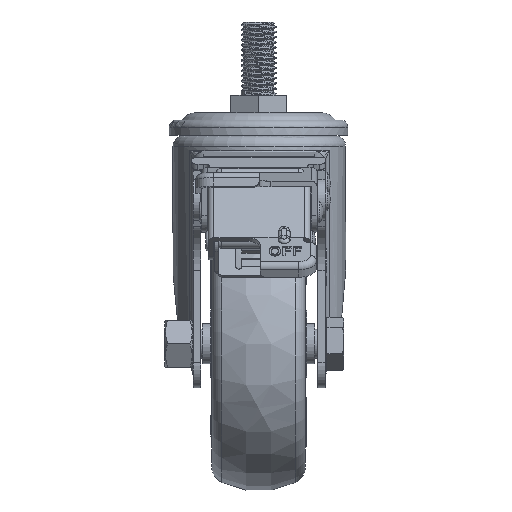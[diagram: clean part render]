
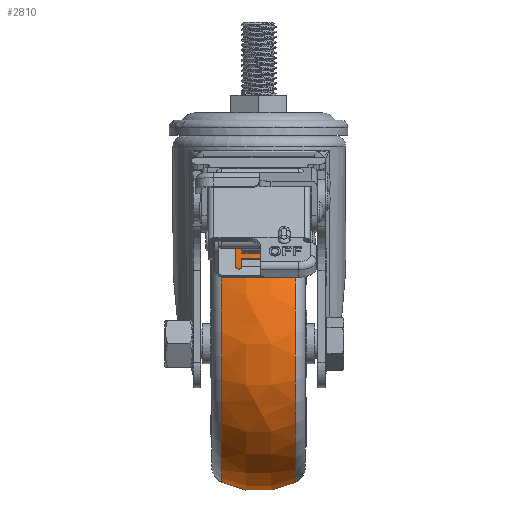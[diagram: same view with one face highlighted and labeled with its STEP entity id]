
A CAD part, left-side view. The second image highlights one B-rep face of the part: STEP entity #2810.
In plain terms, the highlighted free-form (B-spline) face has degree [3, 3] with [4, 7] control points.
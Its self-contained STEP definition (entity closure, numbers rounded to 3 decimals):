
#152=(
BOUNDED_SURFACE()
B_SPLINE_SURFACE(3,3,((#45657,#45658,#45659,#45660,#45661,#45662,#45663),
(#45664,#45665,#45666,#45667,#45668,#45669,#45670),(#45671,#45672,#45673,
#45674,#45675,#45676,#45677),(#45678,#45679,#45680,#45681,#45682,#45683,
#45684)),.UNSPECIFIED.,.F.,.T.,.F.)
B_SPLINE_SURFACE_WITH_KNOTS((4,4),(1,3,3,3,1),(0.,1.),(-0.5,0.,0.5,1.,1.5),
 .UNSPECIFIED.)
GEOMETRIC_REPRESENTATION_ITEM()
RATIONAL_B_SPLINE_SURFACE(((1.,0.333,0.333,1.,0.333,
0.333,1.),(0.939,0.313,0.313,
0.939,0.313,0.313,0.939),
(0.939,0.313,0.313,0.939,
0.313,0.313,0.939),(1.,0.333,
0.333,1.,0.333,0.333,1.)))
REPRESENTATION_ITEM('')
SURFACE()
);
#992=FACE_BOUND('',#5915,.T.);
#993=FACE_BOUND('',#5916,.T.);
#994=FACE_BOUND('',#5917,.T.);
#1656=CIRCLE('',#22821,47.522);
#1683=CIRCLE('',#22912,47.522);
#2810=ADVANCED_FACE('',(#992,#993,#994),#152,.T.);
#5915=EDGE_LOOP('',(#14782,#14783,#14784,#14785));
#5916=EDGE_LOOP('',(#14786));
#5917=EDGE_LOOP('',(#14787));
#14782=ORIENTED_EDGE('',*,*,#18714,.T.);
#14783=ORIENTED_EDGE('',*,*,#18711,.T.);
#14784=ORIENTED_EDGE('',*,*,#17478,.T.);
#14785=ORIENTED_EDGE('',*,*,#18716,.F.);
#14786=ORIENTED_EDGE('',*,*,#19968,.F.);
#14787=ORIENTED_EDGE('',*,*,#20215,.F.);
#15427=VERTEX_POINT('',#28479);
#15428=VERTEX_POINT('',#28480);
#16337=VERTEX_POINT('',#36048);
#16338=VERTEX_POINT('',#36062);
#17112=VERTEX_POINT('',#43835);
#17277=VERTEX_POINT('',#44980);
#17478=EDGE_CURVE('',#15427,#15428,#20513,.T.);
#18711=EDGE_CURVE('',#16337,#15427,#20865,.T.);
#18714=EDGE_CURVE('',#16338,#16337,#20866,.T.);
#18716=EDGE_CURVE('',#16338,#15428,#20867,.T.);
#19968=EDGE_CURVE('',#17112,#17112,#1656,.T.);
#20215=EDGE_CURVE('',#17277,#17277,#1683,.T.);
#20513=B_SPLINE_CURVE_WITH_KNOTS('',3,(#28469,#28470,#28471,#28472,#28473,
#28474,#28475,#28476,#28477,#28478),.UNSPECIFIED.,.F.,.F.,(4,3,3,4),(0.,
0.401,0.798,1.),.UNSPECIFIED.);
#20865=B_SPLINE_CURVE_WITH_KNOTS('',3,(#36044,#36045,#36046,#36047),
 .UNSPECIFIED.,.F.,.F.,(4,4),(0.,1.),.UNSPECIFIED.);
#20866=B_SPLINE_CURVE_WITH_KNOTS('',3,(#36052,#36053,#36054,#36055,#36056,
#36057,#36058,#36059,#36060,#36061),.UNSPECIFIED.,.F.,.F.,(4,3,3,4),(0.,
0.405,0.811,1.),.UNSPECIFIED.);
#20867=B_SPLINE_CURVE_WITH_KNOTS('',3,(#36065,#36066,#36067,#36068),
 .UNSPECIFIED.,.F.,.F.,(4,4),(0.,1.),.UNSPECIFIED.);
#22821=AXIS2_PLACEMENT_3D('',#43834,#27539,#27540);
#22912=AXIS2_PLACEMENT_3D('',#44979,#27913,#27914);
#27539=DIRECTION('',(0.,-1.,0.));
#27540=DIRECTION('',(-0.707,0.,0.707));
#27913=DIRECTION('',(0.,1.,0.));
#27914=DIRECTION('',(0.707,0.,-0.707));
#28469=CARTESIAN_POINT('',(-71.597,0.7,-79.076));
#28470=CARTESIAN_POINT('',(-71.514,0.801,-78.973));
#28471=CARTESIAN_POINT('',(-71.415,0.875,-78.851));
#28472=CARTESIAN_POINT('',(-71.314,0.922,-78.726));
#28473=CARTESIAN_POINT('',(-71.214,0.968,-78.602));
#28474=CARTESIAN_POINT('',(-71.107,0.988,-78.471));
#28475=CARTESIAN_POINT('',(-71.003,0.983,-78.342));
#28476=CARTESIAN_POINT('',(-70.949,0.98,-78.275));
#28477=CARTESIAN_POINT('',(-70.895,0.971,-78.209));
#28478=CARTESIAN_POINT('',(-70.842,0.954,-78.144));
#28479=CARTESIAN_POINT('',(-71.597,0.7,-79.076));
#28480=CARTESIAN_POINT('',(-70.842,0.954,-78.144));
#36044=CARTESIAN_POINT('',(-71.597,-0.7,-79.076));
#36045=CARTESIAN_POINT('',(-71.606,-0.233,-79.069));
#36046=CARTESIAN_POINT('',(-71.606,0.233,-79.069));
#36047=CARTESIAN_POINT('',(-71.597,0.7,-79.076));
#36048=CARTESIAN_POINT('',(-71.597,-0.7,-79.076));
#36052=CARTESIAN_POINT('',(-70.842,-0.954,-78.144));
#36053=CARTESIAN_POINT('',(-70.947,-0.986,-78.273));
#36054=CARTESIAN_POINT('',(-71.056,-0.992,-78.408));
#36055=CARTESIAN_POINT('',(-71.162,-0.971,-78.539));
#36056=CARTESIAN_POINT('',(-71.268,-0.95,-78.669));
#36057=CARTESIAN_POINT('',(-71.374,-0.902,-78.8));
#36058=CARTESIAN_POINT('',(-71.469,-0.826,-78.918));
#36059=CARTESIAN_POINT('',(-71.514,-0.791,-78.974));
#36060=CARTESIAN_POINT('',(-71.558,-0.748,-79.027));
#36061=CARTESIAN_POINT('',(-71.597,-0.7,-79.076));
#36062=CARTESIAN_POINT('',(-70.842,-0.954,-78.144));
#36065=CARTESIAN_POINT('',(-70.842,-0.954,-78.144));
#36066=CARTESIAN_POINT('',(-70.858,-0.318,-78.131));
#36067=CARTESIAN_POINT('',(-70.858,0.318,-78.131));
#36068=CARTESIAN_POINT('',(-70.842,0.954,-78.144));
#43834=CARTESIAN_POINT('',(-32.,-12.5,-110.));
#43835=CARTESIAN_POINT('',(-65.603,-12.5,-76.397));
#44979=CARTESIAN_POINT('',(-32.,12.5,-110.));
#44980=CARTESIAN_POINT('',(1.603,12.5,-143.603));
#45657=CARTESIAN_POINT('',(-79.522,-12.5,-110.));
#45658=CARTESIAN_POINT('',(-79.522,-12.5,-205.044));
#45659=CARTESIAN_POINT('',(15.522,-12.5,-205.044));
#45660=CARTESIAN_POINT('',(15.522,-12.5,-110.));
#45661=CARTESIAN_POINT('',(15.522,-12.5,-14.956));
#45662=CARTESIAN_POINT('',(-79.522,-12.5,-14.956));
#45663=CARTESIAN_POINT('',(-79.522,-12.5,-110.));
#45664=CARTESIAN_POINT('',(-83.218,-4.436,-110.));
#45665=CARTESIAN_POINT('',(-83.218,-4.436,-212.436));
#45666=CARTESIAN_POINT('',(19.218,-4.436,-212.436));
#45667=CARTESIAN_POINT('',(19.218,-4.436,-110.));
#45668=CARTESIAN_POINT('',(19.218,-4.436,-7.564));
#45669=CARTESIAN_POINT('',(-83.218,-4.436,-7.564));
#45670=CARTESIAN_POINT('',(-83.218,-4.436,-110.));
#45671=CARTESIAN_POINT('',(-83.218,4.436,-110.));
#45672=CARTESIAN_POINT('',(-83.218,4.436,-212.436));
#45673=CARTESIAN_POINT('',(19.218,4.436,-212.436));
#45674=CARTESIAN_POINT('',(19.218,4.436,-110.));
#45675=CARTESIAN_POINT('',(19.218,4.436,-7.564));
#45676=CARTESIAN_POINT('',(-83.218,4.436,-7.564));
#45677=CARTESIAN_POINT('',(-83.218,4.436,-110.));
#45678=CARTESIAN_POINT('',(-79.522,12.5,-110.));
#45679=CARTESIAN_POINT('',(-79.522,12.5,-205.044));
#45680=CARTESIAN_POINT('',(15.522,12.5,-205.044));
#45681=CARTESIAN_POINT('',(15.522,12.5,-110.));
#45682=CARTESIAN_POINT('',(15.522,12.5,-14.956));
#45683=CARTESIAN_POINT('',(-79.522,12.5,-14.956));
#45684=CARTESIAN_POINT('',(-79.522,12.5,-110.));
